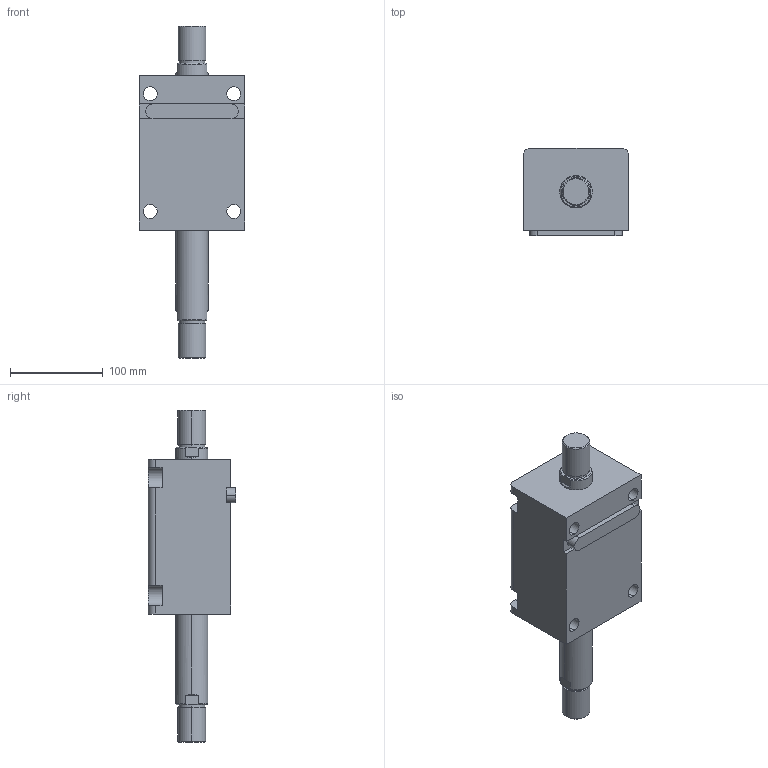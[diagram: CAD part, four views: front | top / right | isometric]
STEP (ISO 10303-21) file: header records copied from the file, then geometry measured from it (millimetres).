
FILE_DESCRIPTION (( 'STEP AP203' ), '1' );
FILE_NAME ('HTB-LW63-85W.STEP', '2019-10-09T08:29:17', ( '微软用户' ), ( '微软中国' ), 'SwSTEP 2.0', 'SolidWorks 2012', '' );
FILE_SCHEMA (( 'CONFIG_CONTROL_DESIGN' ));
Length unit declared in the file: millimetre
Products named in the file (4): HTB-LW63-85W; HTB-LA63-瑩; HTB-LW63-85W活塞杆; HTB-LW63-85掛极
Assembly tree (3 placements, depth 2):
  HTB-LW63-85W
    HTB-LW63-85掛极
    HTB-LW63-85W活塞杆
    HTB-LA63-瑩
Bounding box: 114 x 94.5 x 358 mm (x, y, z)
Volume: 1593837.8 mm3; surface area: 184904.5 mm2
Topology: 3 solids, 3 shells, 109 faces, 265 edges, 174 vertices
Faces by surface type: plane 48, cylinder 45, cone 12, torus 4
Entity records: 3679 total; most frequent: CARTESIAN_POINT 610, DIRECTION 593, ORIENTED_EDGE 530, EDGE_CURVE 265, AXIS2_PLACEMENT_3D 229, VERTEX_POINT 174, LINE 135, VECTOR 135
